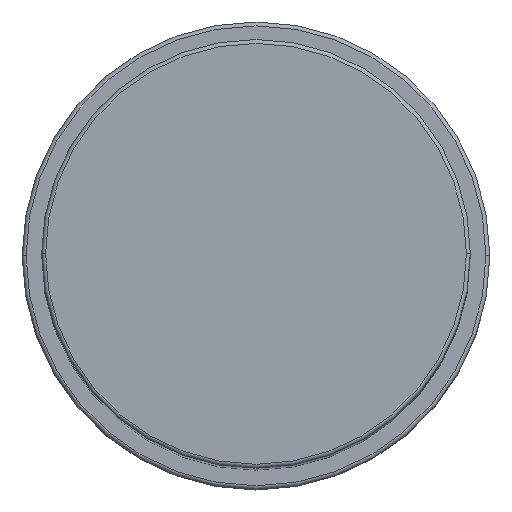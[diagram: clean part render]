
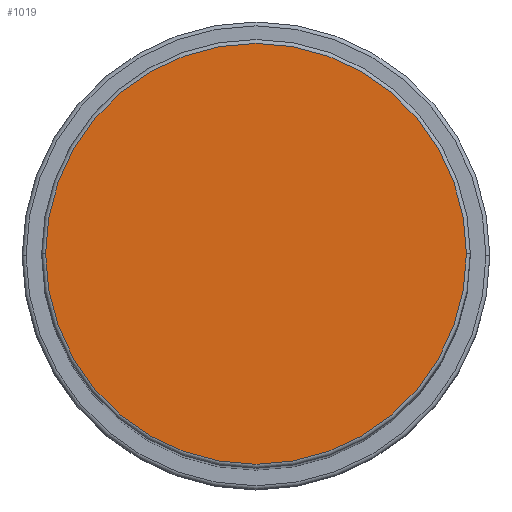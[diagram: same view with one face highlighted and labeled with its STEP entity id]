
A CAD part, top view. The second image highlights one B-rep face of the part: STEP entity #1019.
In plain terms, the highlighted planar face has unit normal (0, 0, 1).
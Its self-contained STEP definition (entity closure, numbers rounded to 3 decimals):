
#32 = EDGE_LOOP ( 'NONE', ( #345, #1722 ) ) ;
#44 = AXIS2_PLACEMENT_3D ( 'NONE', #1656, #1825, #274 ) ;
#197 = DIRECTION ( 'NONE',  ( 0., 0., 1. ) ) ;
#198 = EDGE_CURVE ( 'NONE', #713, #691, #1213, .T. ) ;
#274 = DIRECTION ( 'NONE',  ( 1., 0., 0. ) ) ;
#345 = ORIENTED_EDGE ( 'NONE', *, *, #198, .T. ) ;
#504 = CARTESIAN_POINT ( 'NONE',  ( 0., 0., 158. ) ) ;
#557 = CIRCLE ( 'NONE', #1245, 27. ) ;
#691 = VERTEX_POINT ( 'NONE', #1058 ) ;
#713 = VERTEX_POINT ( 'NONE', #904 ) ;
#749 = PLANE ( 'NONE',  #44 ) ;
#832 = DIRECTION ( 'NONE',  ( 0., 0., 1. ) ) ;
#904 = CARTESIAN_POINT ( 'NONE',  ( 27., 0., 158. ) ) ;
#1019 = ADVANCED_FACE ( 'NONE', ( #1288 ), #749, .T. ) ;
#1058 = CARTESIAN_POINT ( 'NONE',  ( -27., 0., 158. ) ) ;
#1092 = AXIS2_PLACEMENT_3D ( 'NONE', #504, #197, #1116 ) ;
#1116 = DIRECTION ( 'NONE',  ( 1., 0., 0. ) ) ;
#1213 = CIRCLE ( 'NONE', #1092, 27. ) ;
#1245 = AXIS2_PLACEMENT_3D ( 'NONE', #1763, #832, #1298 ) ;
#1288 = FACE_OUTER_BOUND ( 'NONE', #32, .T. ) ;
#1298 = DIRECTION ( 'NONE',  ( 1., 0., 0. ) ) ;
#1300 = EDGE_CURVE ( 'NONE', #691, #713, #557, .T. ) ;
#1656 = CARTESIAN_POINT ( 'NONE',  ( 0., 0., 158. ) ) ;
#1722 = ORIENTED_EDGE ( 'NONE', *, *, #1300, .T. ) ;
#1763 = CARTESIAN_POINT ( 'NONE',  ( 0., 0., 158. ) ) ;
#1825 = DIRECTION ( 'NONE',  ( 0., 0., 1. ) ) ;
